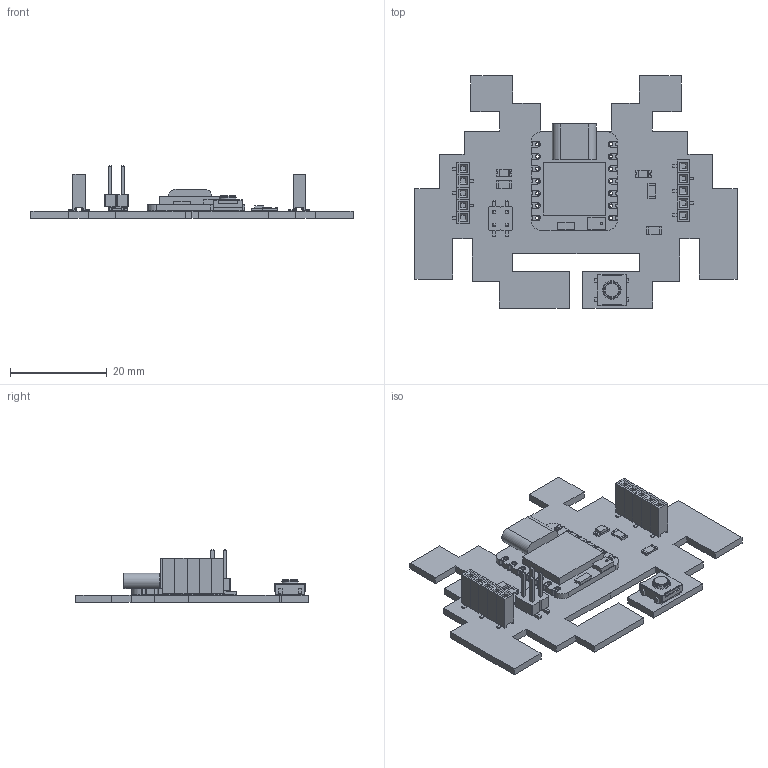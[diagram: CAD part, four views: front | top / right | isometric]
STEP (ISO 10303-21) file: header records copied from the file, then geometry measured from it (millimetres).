
FILE_DESCRIPTION(('KiCad electronic assembly'),'2;1');
FILE_NAME('board_case.step','2025-03-05T04:00:15',('Pcbnew'),('Kicad'), 'Open CASCADE STEP processor 7.8','KiCad to STEP converter','Unknown' );
FILE_SCHEMA(('AUTOMOTIVE_DESIGN { 1 0 10303 214 1 1 1 1 }'));
Length unit declared in the file: millimetre
Products named in the file (50): board_case 1; PinSocket-01x05_P2.54mm_Vertical_SMD; board_case 1.1.1; board_case 1.1.2; board_case 1.1.3; board_case 1.1.4; board_case 1.1.5; LED-1206; Base; Emmiter; Contact_1; Contact_2; Switch_Omron-B3SN-3112P; Leads; Lead; Body002; Body003; Body004; Button; Cover; Resistor-1206; Ceramic; Contacts; Contacts (Mirror #1); Overcoat; Seeed_XIAO-nRF52840_Sense; SoC_nRF_Sense; Mic_nRF_Sense; Antenna_nRF_Sense; XIAO_Generic; Board; USB; Contact; Contact Clones; Body007; Body008; Body009; Body010; Body011; Body012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
Assembly tree (53 placements, depth 5):
  board_case 1
    PinSocket-01x05_P2.54mm_Vertical_SMD  x2
      board_case 1.1.1
      board_case 1.1.2
      board_case 1.1.3
      board_case 1.1.4
      board_case 1.1.5
    LED-1206  x2
      Base
      Emmiter
      Contact_1
      Contact_2
    Switch_Omron-B3SN-3112P
      Base
      Leads
        Lead
        Body002
        Body003
        Body004
      Button
      Cover
    Resistor-1206  x3
      Ceramic
      Contacts
      Contacts (Mirror #1)
      Overcoat
    Seeed_XIAO-nRF52840_Sense
      SoC_nRF_Sense
      Mic_nRF_Sense
      Antenna_nRF_Sense
      XIAO_Generic
        Board
        USB
        Contact
        Contact Clones
          Body007
          Body008
          Body009
          Body010
          Body011
          Body012
          Body013
          Body014
          Body015
          Body016
          Body017
          Body018
          Body019
    PinHeader_2x02_P2.54mm_Vertical_SMD
    board_PCB
Bounding box: 66.56 x 48.01 x 10.89 mm (x, y, z)
Volume: 4551.8 mm3; surface area: 8317.6 mm2
Topology: 68 solids, 68 shells, 1022 faces, 2536 edges, 1669 vertices
Faces by surface type: plane 837, cylinder 181, torus 3, cone 1
Full cylindrical faces by diameter (mm): 0.5 x1, 0.7 x14, 0.8 x42, 3 x2
Entity records: 25002 total; most frequent: CARTESIAN_POINT 4062, DIRECTION 3928, ORIENTED_EDGE 3888, EDGE_CURVE 1944, LINE 1578, VECTOR 1578, VERTEX_POINT 1281, AXIS2_PLACEMENT_3D 1175
